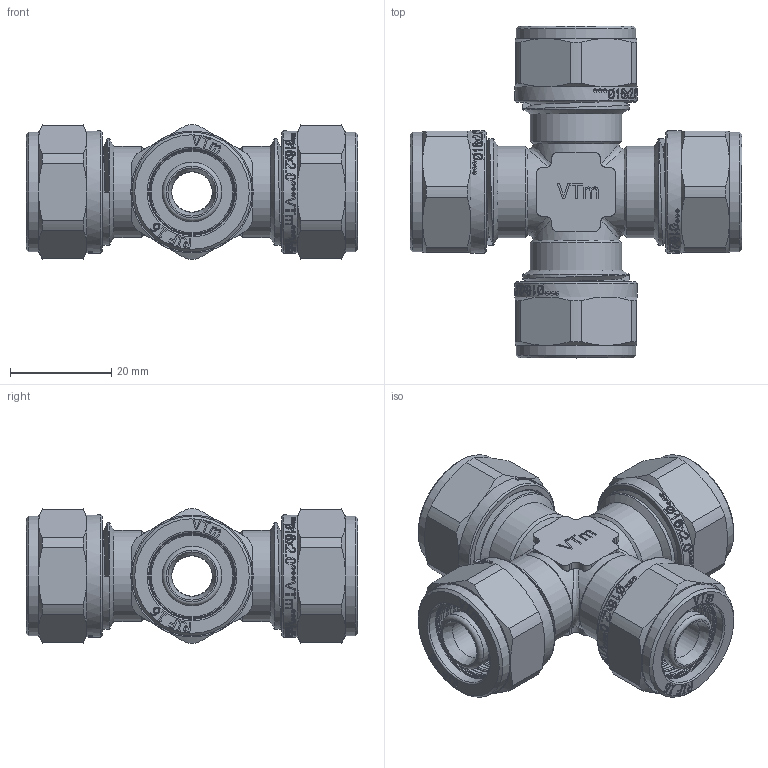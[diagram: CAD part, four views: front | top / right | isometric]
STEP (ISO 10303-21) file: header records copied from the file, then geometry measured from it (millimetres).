
FILE_DESCRIPTION(/* description */ (''),/* implementation_level */ '2;1');
FILE_NAME(/* name */ 'F:\Артём\00000\Работа удаленка\Обжимные фитинги\VTm.341.N.161616.stp',/* time_stamp */ '2020-08-03T15:43:23+03:00',/* author */ ('almis'),/* organization */ (''),/* preprocessor_version */ 'ST-DEVELOPER v18',/* originating_system */ 'Autodesk Inventor 2020',/* authorisation */ '');
FILE_SCHEMA (('AUTOMOTIVE_DESIGN { 1 0 10303 214 3 1 1 }'));
Products named in the file (1): VTm.301.N.001604
Bounding box: 65.55 x 65.55 x 26.51 mm (x, y, z)
Volume: 28110.6 mm3; surface area: 23957.1 mm2
Topology: 1 solids, 1 shells, 2704 faces, 7571 edges, 5077 vertices
Faces by surface type: bspline 1380, plane 812, cylinder 324, torus 100, cone 88
Full cylindrical faces by diameter (mm): 8 x4, 9.4 x8, 11.75 x16, 16.124 x16, 16.2 x4, 16.724 x20, 17.124 x4, 17.4 x8, 18 x4, 18.724 x4, 21 x12, 23.624 x4, 24.124 x4
Entity records: 111509 total; most frequent: CARTESIAN_POINT 50447, ORIENTED_EDGE 15150, DIRECTION 8552, EDGE_CURVE 7575, VERTEX_POINT 5081, LINE 3256, VECTOR 3256, EDGE_LOOP 2934
